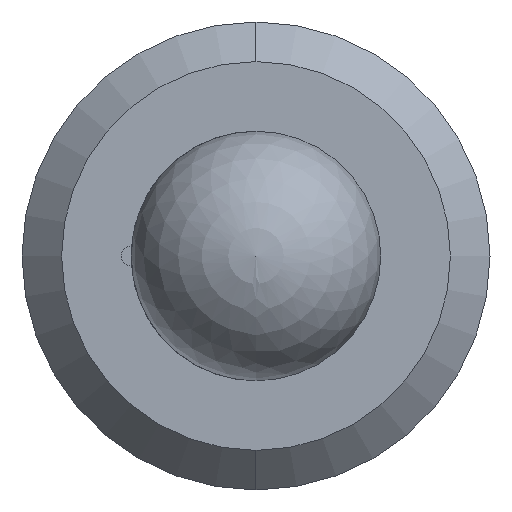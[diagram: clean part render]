
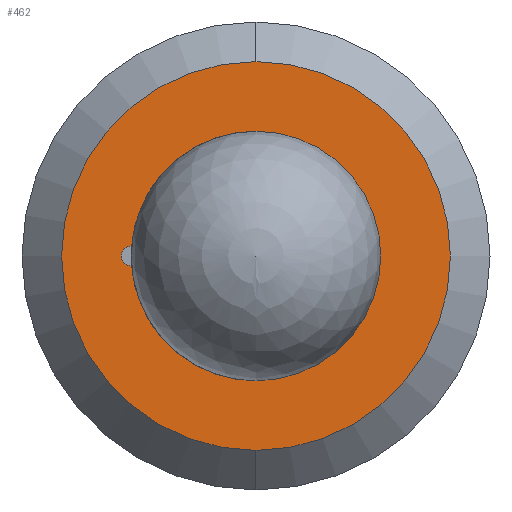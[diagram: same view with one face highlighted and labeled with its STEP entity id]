
A CAD part, left-side view. The second image highlights one B-rep face of the part: STEP entity #462.
In plain terms, the highlighted planar face has unit normal (-1, 0, 0).
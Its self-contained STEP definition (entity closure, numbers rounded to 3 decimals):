
#20 = ORIENTED_EDGE ( 'NONE', *, *, #228, .F. ) ;
#29 = EDGE_CURVE ( 'NONE', #322, #603, #573, .T. ) ;
#36 = CARTESIAN_POINT ( 'NONE',  ( 0., 0.8, 0. ) ) ;
#42 = PLANE ( 'NONE',  #485 ) ;
#48 = AXIS2_PLACEMENT_3D ( 'NONE', #103, #101, #337 ) ;
#60 = DIRECTION ( 'NONE',  ( -1., 0., 0. ) ) ;
#79 = AXIS2_PLACEMENT_3D ( 'NONE', #36, #445, #100 ) ;
#94 = EDGE_CURVE ( 'NONE', #669, #711, #361, .T. ) ;
#98 = CARTESIAN_POINT ( 'NONE',  ( 0., 0., 0.8 ) ) ;
#100 = DIRECTION ( 'NONE',  ( 0., 0., 1. ) ) ;
#101 = DIRECTION ( 'NONE',  ( -1., 0., 0. ) ) ;
#103 = CARTESIAN_POINT ( 'NONE',  ( 0., 0., 0. ) ) ;
#123 = ORIENTED_EDGE ( 'NONE', *, *, #654, .T. ) ;
#147 = CARTESIAN_POINT ( 'NONE',  ( 0., 0.797, 0.063 ) ) ;
#151 = ORIENTED_EDGE ( 'NONE', *, *, #291, .F. ) ;
#161 = CARTESIAN_POINT ( 'NONE',  ( 0., 0., 0. ) ) ;
#166 = ORIENTED_EDGE ( 'NONE', *, *, #94, .F. ) ;
#168 = FACE_OUTER_BOUND ( 'NONE', #429, .T. ) ;
#189 = CARTESIAN_POINT ( 'NONE',  ( 0., 0.8, 0. ) ) ;
#211 = ORIENTED_EDGE ( 'NONE', *, *, #295, .F. ) ;
#212 = CARTESIAN_POINT ( 'NONE',  ( 0., 0., 0. ) ) ;
#217 = ORIENTED_EDGE ( 'NONE', *, *, #595, .T. ) ;
#221 = DIRECTION ( 'NONE',  ( 0., 0., 1. ) ) ;
#222 = AXIS2_PLACEMENT_3D ( 'NONE', #676, #331, #732 ) ;
#228 = EDGE_CURVE ( 'NONE', #697, #322, #723, .T. ) ;
#232 = CARTESIAN_POINT ( 'NONE',  ( 0., 0., 0. ) ) ;
#238 = VERTEX_POINT ( 'NONE', #320 ) ;
#251 = DIRECTION ( 'NONE',  ( 0., 0., 1. ) ) ;
#265 = CARTESIAN_POINT ( 'NONE',  ( 0., 0., 0. ) ) ;
#291 = EDGE_CURVE ( 'NONE', #527, #697, #548, .T. ) ;
#295 = EDGE_CURVE ( 'NONE', #711, #527, #628, .T. ) ;
#308 = AXIS2_PLACEMENT_3D ( 'NONE', #161, #566, #221 ) ;
#320 = CARTESIAN_POINT ( 'NONE',  ( 0., 0., 1.246 ) ) ;
#321 = DIRECTION ( 'NONE',  ( 0., 0., -1. ) ) ;
#322 = VERTEX_POINT ( 'NONE', #98 ) ;
#331 = DIRECTION ( 'NONE',  ( -1., 0., 0. ) ) ;
#336 = EDGE_CURVE ( 'NONE', #603, #669, #386, .T. ) ;
#337 = DIRECTION ( 'NONE',  ( 0., 0., 1. ) ) ;
#339 = DIRECTION ( 'NONE',  ( 1., 0., 0. ) ) ;
#342 = CIRCLE ( 'NONE', #655, 1.246 ) ;
#345 = CARTESIAN_POINT ( 'NONE',  ( 0., 0.797, -0.063 ) ) ;
#361 = CIRCLE ( 'NONE', #563, 0.064 ) ;
#379 = AXIS2_PLACEMENT_3D ( 'NONE', #212, #407, #505 ) ;
#386 = CIRCLE ( 'NONE', #79, 0.064 ) ;
#393 = CARTESIAN_POINT ( 'NONE',  ( 0., 0., -0.8 ) ) ;
#407 = DIRECTION ( 'NONE',  ( -1., 0., 0. ) ) ;
#414 = CARTESIAN_POINT ( 'NONE',  ( 0., 0., 0. ) ) ;
#429 = EDGE_LOOP ( 'NONE', ( #123, #217 ) ) ;
#445 = DIRECTION ( 'NONE',  ( -1., 0., 0. ) ) ;
#449 = CARTESIAN_POINT ( 'NONE',  ( 0., 0.8, 0.064 ) ) ;
#462 = ADVANCED_FACE ( 'NONE', ( #466, #168 ), #42, .F. ) ;
#466 = FACE_BOUND ( 'NONE', #567, .T. ) ;
#467 = DIRECTION ( 'NONE',  ( 0., 0., 1. ) ) ;
#485 = AXIS2_PLACEMENT_3D ( 'NONE', #232, #339, #741 ) ;
#505 = DIRECTION ( 'NONE',  ( 0., 0., -1. ) ) ;
#520 = CARTESIAN_POINT ( 'NONE',  ( 0., 0., -1.246 ) ) ;
#527 = VERTEX_POINT ( 'NONE', #345 ) ;
#537 = VERTEX_POINT ( 'NONE', #520 ) ;
#546 = AXIS2_PLACEMENT_3D ( 'NONE', #414, #60, #467 ) ;
#548 = CIRCLE ( 'NONE', #308, 0.8 ) ;
#563 = AXIS2_PLACEMENT_3D ( 'NONE', #189, #598, #251 ) ;
#566 = DIRECTION ( 'NONE',  ( -1., 0., 0. ) ) ;
#567 = EDGE_LOOP ( 'NONE', ( #151, #211, #166, #588, #633, #20 ) ) ;
#573 = CIRCLE ( 'NONE', #48, 0.8 ) ;
#576 = CARTESIAN_POINT ( 'NONE',  ( 0., 0.8, -0.064 ) ) ;
#588 = ORIENTED_EDGE ( 'NONE', *, *, #336, .F. ) ;
#595 = EDGE_CURVE ( 'NONE', #238, #537, #342, .T. ) ;
#598 = DIRECTION ( 'NONE',  ( -1., 0., 0. ) ) ;
#603 = VERTEX_POINT ( 'NONE', #147 ) ;
#615 = CIRCLE ( 'NONE', #379, 1.246 ) ;
#628 = CIRCLE ( 'NONE', #222, 0.064 ) ;
#633 = ORIENTED_EDGE ( 'NONE', *, *, #29, .F. ) ;
#654 = EDGE_CURVE ( 'NONE', #537, #238, #615, .T. ) ;
#655 = AXIS2_PLACEMENT_3D ( 'NONE', #265, #663, #321 ) ;
#663 = DIRECTION ( 'NONE',  ( -1., 0., 0. ) ) ;
#669 = VERTEX_POINT ( 'NONE', #449 ) ;
#676 = CARTESIAN_POINT ( 'NONE',  ( 0., 0.8, 0. ) ) ;
#697 = VERTEX_POINT ( 'NONE', #393 ) ;
#711 = VERTEX_POINT ( 'NONE', #576 ) ;
#723 = CIRCLE ( 'NONE', #546, 0.8 ) ;
#732 = DIRECTION ( 'NONE',  ( 0., 0., 1. ) ) ;
#741 = DIRECTION ( 'NONE',  ( 0., 0., -1. ) ) ;
